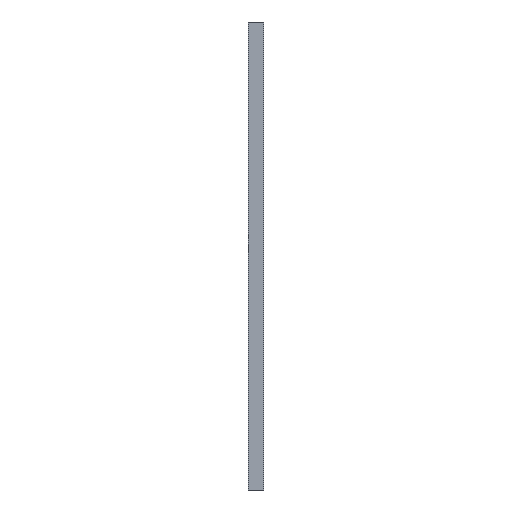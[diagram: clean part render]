
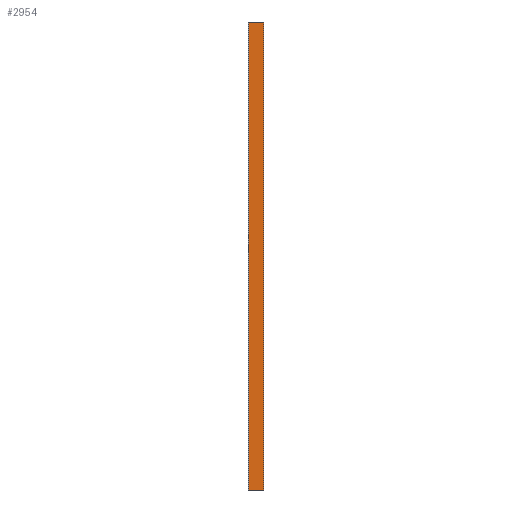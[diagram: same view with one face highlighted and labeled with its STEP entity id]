
A CAD part, left-side view. The second image highlights one B-rep face of the part: STEP entity #2954.
In plain terms, the highlighted planar face has unit normal (-1, 0, 0).
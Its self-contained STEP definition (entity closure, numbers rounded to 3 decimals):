
#183=PLANE('',#3213);
#598=ORIENTED_EDGE('',*,*,#1480,.T.);
#599=ORIENTED_EDGE('',*,*,#1481,.F.);
#600=ORIENTED_EDGE('',*,*,#1455,.F.);
#601=ORIENTED_EDGE('',*,*,#1479,.T.);
#1455=EDGE_CURVE('',#1876,#1877,#2101,.T.);
#1479=EDGE_CURVE('',#1876,#1898,#2111,.T.);
#1480=EDGE_CURVE('',#1898,#1899,#2112,.T.);
#1481=EDGE_CURVE('',#1877,#1899,#2113,.T.);
#1876=VERTEX_POINT('',#4905);
#1877=VERTEX_POINT('',#4907);
#1898=VERTEX_POINT('',#4953);
#1899=VERTEX_POINT('',#4957);
#2101=LINE('',#4906,#2339);
#2111=LINE('',#4954,#2349);
#2112=LINE('',#4956,#2350);
#2113=LINE('',#4958,#2351);
#2339=VECTOR('',#3716,1000.);
#2349=VECTOR('',#3758,1000.);
#2350=VECTOR('',#3761,1000.);
#2351=VECTOR('',#3762,1000.);
#2542=EDGE_LOOP('',(#598,#599,#600,#601));
#2698=FACE_BOUND('',#2542,.T.);
#2954=ADVANCED_FACE('',(#2698),#183,.F.);
#3213=AXIS2_PLACEMENT_3D('',#4955,#3759,#3760);
#3716=DIRECTION('',(0.,-1.,0.));
#3758=DIRECTION('',(0.,0.,-1.));
#3759=DIRECTION('',(1.,0.,0.));
#3760=DIRECTION('',(0.,1.,0.));
#3761=DIRECTION('',(0.,-1.,0.));
#3762=DIRECTION('',(0.,0.,-1.));
#4905=CARTESIAN_POINT('',(-14.,39.3,726.5));
#4906=CARTESIAN_POINT('',(-14.,-7.5,726.5));
#4907=CARTESIAN_POINT('',(-14.,-7.5,726.5));
#4953=CARTESIAN_POINT('',(-14.,39.3,-726.5));
#4954=CARTESIAN_POINT('',(-14.,39.3,726.5));
#4955=CARTESIAN_POINT('',(-14.,-7.5,726.5));
#4956=CARTESIAN_POINT('',(-14.,-7.5,-726.5));
#4957=CARTESIAN_POINT('',(-14.,-7.5,-726.5));
#4958=CARTESIAN_POINT('',(-14.,-7.5,726.5));
